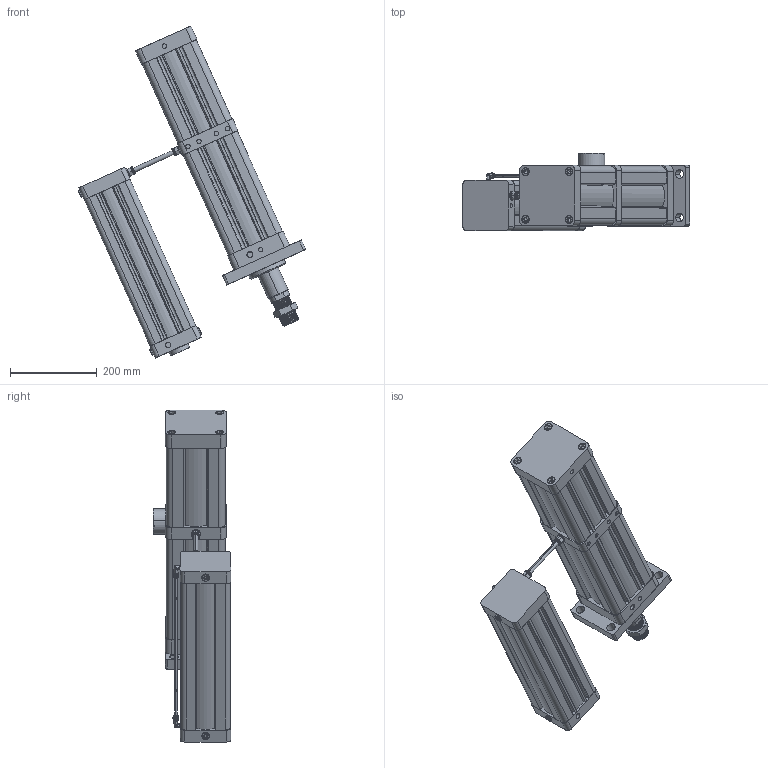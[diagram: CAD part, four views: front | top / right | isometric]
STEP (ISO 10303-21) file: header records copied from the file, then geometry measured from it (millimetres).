
FILE_DESCRIPTION(('CATIA V5 STEP Exchange'),'2;1');
FILE_NAME('D:\stp file for catalog\PHP-STP\PHPV-100.stp','2020-10-18T06:24:09+00:00',('none'),('none'),'CATIA Version 5-6 Release 2016','CATIA V5 STEP AP203','none');
FILE_SCHEMA(('CONFIG_CONTROL_DESIGN'));
Products named in the file (2): PHPV-100-100; prssure
Assembly tree (43 placements, depth 3):
  PHPV-100-100
    #57
    #689
    #1257
    #4454
    #5243
    #8440
    #9158
    #9749
    #12946
    prssure
      #14022
      #14334
      #14438
      #133444
      #250434
      #250457
      #250819
      #250923
      #251098
      #251468
      #252361
    #253267
    #253371
    #254249
    #255127
    #256005
    #256883
    #268422
    #269336
    #270250
    #271164
    #272078  x3
    #272595  x2
    #272790
    #273007
    #273804
    #274376  x2
    #276946
    #280336
Bounding box: 523.96 x 178.55 x 764.93 mm (x, y, z)
Volume: 7030563 mm3; surface area: 1655405.1 mm2
Topology: 96 solids, 96 shells, 8790 faces, 25206 edges, 16706 vertices
Faces by surface type: plane 7604, cylinder 753, bspline 229, cone 140, torus 52, revolution 12
Entity records: 283494 total; most frequent: CARTESIAN_POINT 59731, ORIENTED_EDGE 49908, DIRECTION 39973, EDGE_CURVE 24954, VECTOR 22586, LINE 22586, VERTEX_POINT 16554, AXIS2_PLACEMENT_3D 9439
